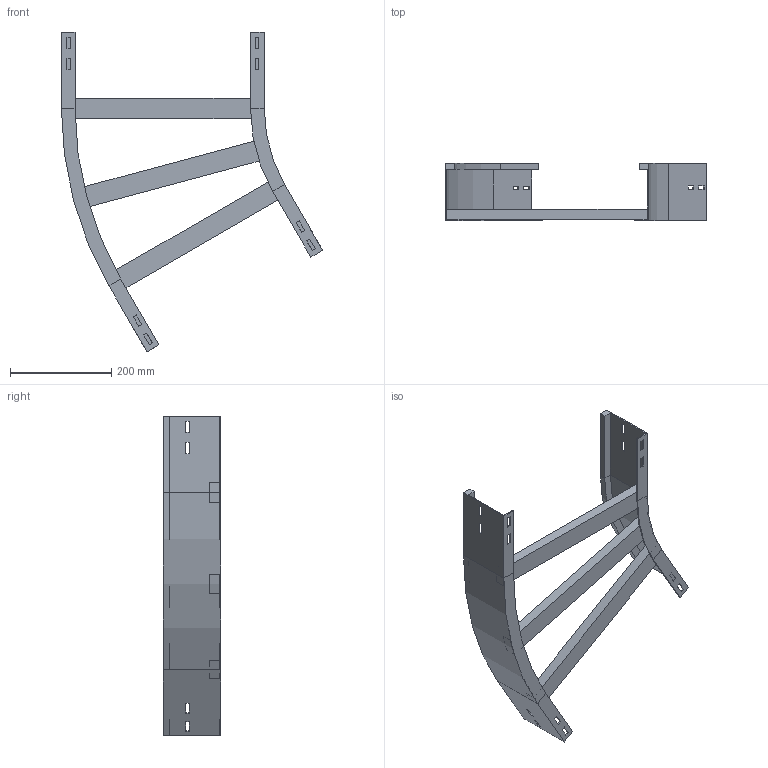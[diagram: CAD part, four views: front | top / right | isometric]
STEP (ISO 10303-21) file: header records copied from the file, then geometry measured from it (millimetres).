
FILE_DESCRIPTION (( 'STEP AP214' ), '1' );
FILE_NAME ('A2_12B3J400.step', '2025-02-21T15:08:57', ( '' ), ( '' ), 'SwSTEP 2.0', 'SolidWorks 2023', '' );
FILE_SCHEMA (( 'AUTOMOTIVE_DESIGN' ));
Length unit declared in the file: millimetre
Products named in the file (4): A2_12B3J400; A2_LONGH.INTERNO 30°_H112.5_R300; TRAVERSINO_400; A2_LONGH.ESTERNO 30°_H112.5_R300+400
Assembly tree (5 placements, depth 2):
  A2_12B3J400
    A2_LONGH.INTERNO 30°_H112.5_R300
    A2_LONGH.ESTERNO 30°_H112.5_R300+400
    TRAVERSINO_400  x3
Bounding box: 515.19 x 112.5 x 629.9 mm (x, y, z)
Volume: 1482072.6 mm3; surface area: 496843.2 mm2
Topology: 5 solids, 5 shells, 134 faces, 340 edges, 216 vertices
Faces by surface type: plane 126, cylinder 8
Entity records: 3821 total; most frequent: CARTESIAN_POINT 646, ORIENTED_EDGE 632, DIRECTION 592, EDGE_CURVE 316, VECTOR 300, LINE 300, VERTEX_POINT 200, EDGE_LOOP 154
